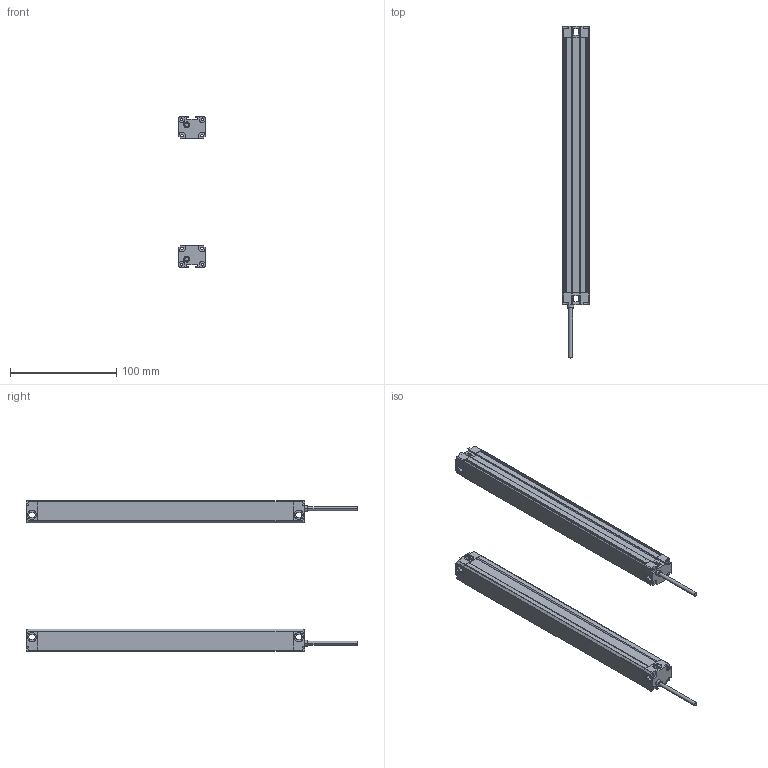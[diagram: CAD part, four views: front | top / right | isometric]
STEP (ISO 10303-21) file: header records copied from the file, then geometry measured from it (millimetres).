
FILE_DESCRIPTION (( 'STEP AP214' ), '1' );
FILE_NAME ('MTC1220.STEP', '2022-08-02T08:54:22', ( '' ), ( '' ), 'SwSTEP 2.0', 'SolidWorks 2018', '' );
FILE_SCHEMA (( 'AUTOMOTIVE_DESIGN' ));
Length unit declared in the file: millimetre
Products named in the file (5): P02^MTC; 噩砃P02^MTC; MTC waike^MTC; MTC1220; P01^MTC
Assembly tree (6 placements, depth 2):
  MTC1220
    MTC waike^MTC  x2
    P01^MTC  x2
    P02^MTC
    噩砃P02^MTC
Bounding box: 25 x 312 x 141.4 mm (x, y, z)
Volume: 93687.5 mm3; surface area: 122153.9 mm2
Topology: 8 solids, 8 shells, 480 faces, 1396 edges, 924 vertices
Faces by surface type: plane 272, cylinder 208
Entity records: 10886 total; most frequent: DIRECTION 1881, CARTESIAN_POINT 1878, ORIENTED_EDGE 1846, EDGE_CURVE 923, AXIS2_PLACEMENT_3D 637, VERTEX_POINT 610, LINE 607, VECTOR 607
